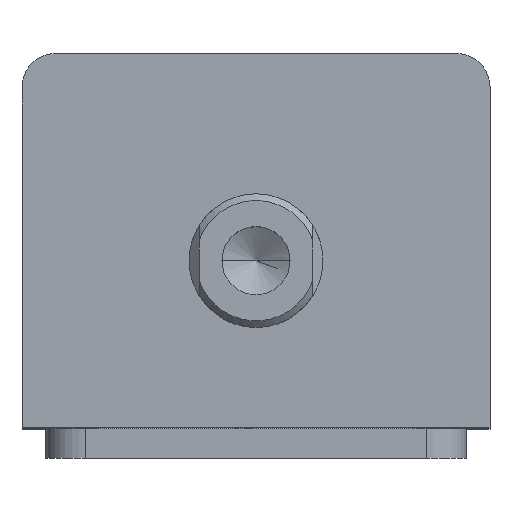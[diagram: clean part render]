
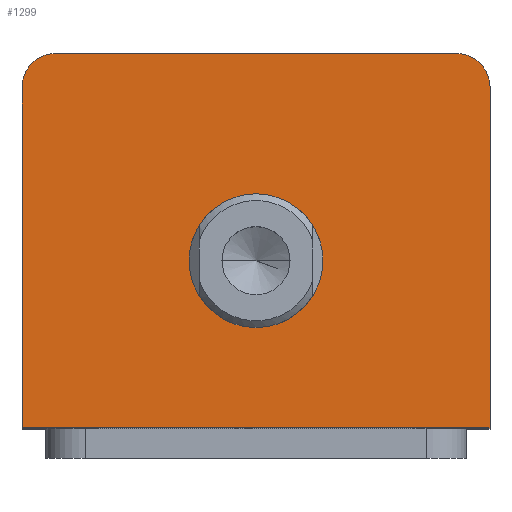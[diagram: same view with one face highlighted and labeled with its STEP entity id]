
A CAD part, top view. The second image highlights one B-rep face of the part: STEP entity #1299.
In plain terms, the highlighted planar face has unit normal (0, 0, 1).
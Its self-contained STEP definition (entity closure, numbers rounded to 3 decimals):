
#23 = VERTEX_POINT ( 'NONE', #2705 ) ;
#145 = VERTEX_POINT ( 'NONE', #2678 ) ;
#168 = VERTEX_POINT ( 'NONE', #2633 ) ;
#190 = VERTEX_POINT ( 'NONE', #2586 ) ;
#194 = VERTEX_POINT ( 'NONE', #2590 ) ;
#270 = EDGE_CURVE ( 'NONE', #2786, #168, #1566, .T. ) ;
#281 = CIRCLE ( 'NONE', #1432, 5. ) ;
#289 = VECTOR ( 'NONE', #924, 1000. ) ;
#297 = LINE ( 'NONE', #931, #289 ) ;
#301 = LINE ( 'NONE', #919, #306 ) ;
#306 = VECTOR ( 'NONE', #917, 1000. ) ;
#341 = CIRCLE ( 'NONE', #1428, 10. ) ;
#796 = EDGE_LOOP ( 'NONE', ( #2968, #2967, #2966, #2965, #2964, #2963 ) ) ;
#798 = EDGE_LOOP ( 'NONE', ( #2970, #2969 ) ) ;
#842 = VERTEX_POINT ( 'NONE', #2438 ) ;
#868 = DIRECTION ( 'NONE',  ( 1., 0., 0. ) ) ;
#869 = DIRECTION ( 'NONE',  ( 0., 0., 1. ) ) ;
#871 = CARTESIAN_POINT ( 'NONE',  ( 0., -3., 114. ) ) ;
#917 = DIRECTION ( 'NONE',  ( 1., 0., 0. ) ) ;
#919 = CARTESIAN_POINT ( 'NONE',  ( -35., -28., 114. ) ) ;
#924 = DIRECTION ( 'NONE',  ( 0., -1., 0. ) ) ;
#931 = CARTESIAN_POINT ( 'NONE',  ( -35., 28., 114. ) ) ;
#936 = DIRECTION ( 'NONE',  ( 1., 0., 0. ) ) ;
#937 = DIRECTION ( 'NONE',  ( 0., 0., 1. ) ) ;
#938 = CARTESIAN_POINT ( 'NONE',  ( -30., 23., 114. ) ) ;
#965 = DIRECTION ( 'NONE',  ( 1., 0., 0. ) ) ;
#966 = DIRECTION ( 'NONE',  ( 0., 0., 1. ) ) ;
#968 = CARTESIAN_POINT ( 'NONE',  ( 30., 23., 114. ) ) ;
#997 = DIRECTION ( 'NONE',  ( 0., 1., 0. ) ) ;
#999 = CARTESIAN_POINT ( 'NONE',  ( 35., 28., 114. ) ) ;
#1063 = DIRECTION ( 'NONE',  ( -1., 0., 0. ) ) ;
#1066 = CARTESIAN_POINT ( 'NONE',  ( -35., 28., 114. ) ) ;
#1170 = DIRECTION ( 'NONE',  ( 1., 0., 0. ) ) ;
#1171 = DIRECTION ( 'NONE',  ( 0., 0., 1. ) ) ;
#1173 = PLANE ( 'NONE',  #1479 ) ;
#1177 = CARTESIAN_POINT ( 'NONE',  ( 0., 0., 114. ) ) ;
#1299 = ADVANCED_FACE ( 'NONE', ( #1679, #1692 ), #1173, .T. ) ;
#1428 = AXIS2_PLACEMENT_3D ( 'NONE', #871, #869, #868 ) ;
#1432 = AXIS2_PLACEMENT_3D ( 'NONE', #938, #937, #936 ) ;
#1439 = AXIS2_PLACEMENT_3D ( 'NONE', #968, #966, #965 ) ;
#1479 = AXIS2_PLACEMENT_3D ( 'NONE', #1177, #1171, #1170 ) ;
#1566 = CIRCLE ( 'NONE', #2062, 10. ) ;
#1679 = FACE_BOUND ( 'NONE', #798, .T. ) ;
#1692 = FACE_OUTER_BOUND ( 'NONE', #796, .T. ) ;
#1733 = LINE ( 'NONE', #1066, #1736 ) ;
#1736 = VECTOR ( 'NONE', #1063, 1000. ) ;
#1779 = LINE ( 'NONE', #999, #1782 ) ;
#1782 = VECTOR ( 'NONE', #997, 1000. ) ;
#1789 = CIRCLE ( 'NONE', #1439, 5. ) ;
#2047 = CARTESIAN_POINT ( 'NONE',  ( -10., -3., 114. ) ) ;
#2062 = AXIS2_PLACEMENT_3D ( 'NONE', #2511, #2510, #2508 ) ;
#2068 = CARTESIAN_POINT ( 'NONE',  ( 30., 28., 114. ) ) ;
#2123 = EDGE_CURVE ( 'NONE', #2792, #145, #1733, .T. ) ;
#2160 = EDGE_CURVE ( 'NONE', #194, #23, #1779, .T. ) ;
#2178 = EDGE_CURVE ( 'NONE', #23, #2792, #1789, .T. ) ;
#2191 = EDGE_CURVE ( 'NONE', #145, #842, #281, .T. ) ;
#2197 = EDGE_CURVE ( 'NONE', #842, #190, #297, .T. ) ;
#2201 = EDGE_CURVE ( 'NONE', #190, #194, #301, .T. ) ;
#2237 = EDGE_CURVE ( 'NONE', #168, #2786, #341, .T. ) ;
#2438 = CARTESIAN_POINT ( 'NONE',  ( -35., 23., 114. ) ) ;
#2508 = DIRECTION ( 'NONE',  ( 1., 0., 0. ) ) ;
#2510 = DIRECTION ( 'NONE',  ( 0., 0., 1. ) ) ;
#2511 = CARTESIAN_POINT ( 'NONE',  ( 0., -3., 114. ) ) ;
#2586 = CARTESIAN_POINT ( 'NONE',  ( -35., -28., 114. ) ) ;
#2590 = CARTESIAN_POINT ( 'NONE',  ( 35., -28., 114. ) ) ;
#2633 = CARTESIAN_POINT ( 'NONE',  ( 10., -3., 114. ) ) ;
#2678 = CARTESIAN_POINT ( 'NONE',  ( -30., 28., 114. ) ) ;
#2705 = CARTESIAN_POINT ( 'NONE',  ( 35., 23., 114. ) ) ;
#2786 = VERTEX_POINT ( 'NONE', #2047 ) ;
#2792 = VERTEX_POINT ( 'NONE', #2068 ) ;
#2963 = ORIENTED_EDGE ( 'NONE', *, *, #2201, .T. ) ;
#2964 = ORIENTED_EDGE ( 'NONE', *, *, #2197, .T. ) ;
#2965 = ORIENTED_EDGE ( 'NONE', *, *, #2191, .T. ) ;
#2966 = ORIENTED_EDGE ( 'NONE', *, *, #2123, .T. ) ;
#2967 = ORIENTED_EDGE ( 'NONE', *, *, #2178, .T. ) ;
#2968 = ORIENTED_EDGE ( 'NONE', *, *, #2160, .T. ) ;
#2969 = ORIENTED_EDGE ( 'NONE', *, *, #270, .F. ) ;
#2970 = ORIENTED_EDGE ( 'NONE', *, *, #2237, .F. ) ;
